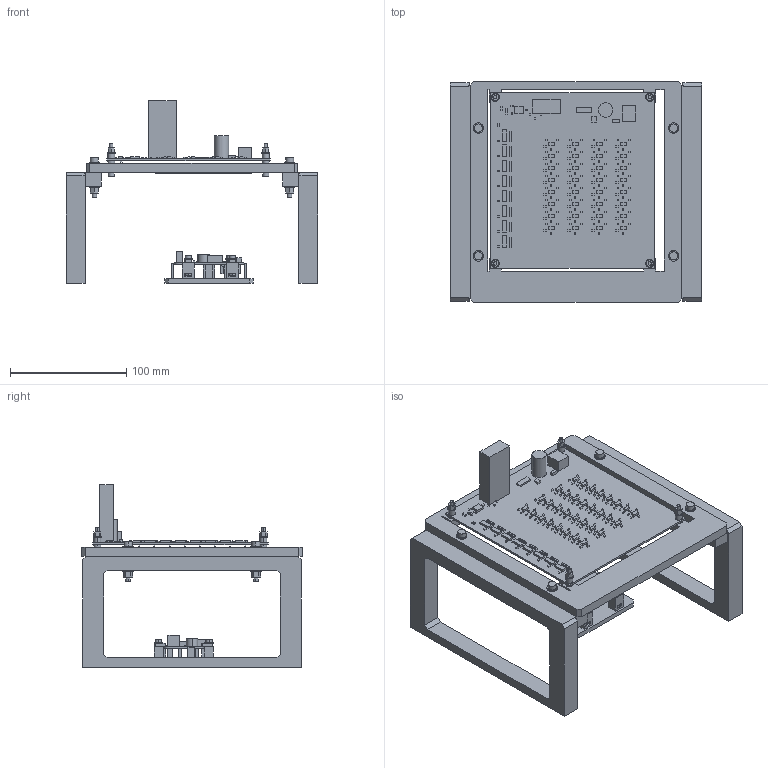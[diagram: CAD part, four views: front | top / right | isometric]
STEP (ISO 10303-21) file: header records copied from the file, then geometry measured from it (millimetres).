
FILE_DESCRIPTION (( 'STEP AP203' ), '1' );
FILE_NAME ('Overhead_8x8_assembly.step', '2026-10-15T10:50:31', ( '' ), ( '' ), 'SwSTEP 2.0', 'SolidWorks 2025', '' );
FILE_SCHEMA (( 'CONFIG_CONTROL_DESIGN' ));
Length unit declared in the file: millimetre
Products named in the file (16): REF_M4x30_screw; 04_m3_rear_sleeve_6x5; Overhead_8x8_assembly; REF_M3_nylock; 06_receiver_edge_clip; REF_receiver_electronics; REF_M3_washer; 01_side_trestle; REF_tx8_electronics; 03_tx_carrier_8x8; REF_M4_nylock; REF_M3x16_screw; REF_M3x25_screw; REF_M3_plain_nut; REF_M4_washer; 05_receiver_flat_tray
Assembly tree (58 placements, depth 2):
  Overhead_8x8_assembly
    01_side_trestle  x2
    03_tx_carrier_8x8
    REF_tx8_electronics
    04_m3_rear_sleeve_6x5  x4
    REF_M3x25_screw  x4
    REF_M3_washer  x12
    REF_M3_nylock  x4
    REF_M4x30_screw  x4
    REF_M4_washer  x8
    REF_M4_nylock  x4
    05_receiver_flat_tray
    REF_receiver_electronics
    06_receiver_edge_clip  x4
    REF_M3x16_screw  x4
    REF_M3_plain_nut  x4
Bounding box: 216 x 190 x 156.9 mm (x, y, z)
Volume: 480382 mm3; surface area: 213408.7 mm2
Topology: 422 solids, 422 shells, 2676 faces, 5412 edges, 3608 vertices
Faces by surface type: plane 2308, cylinder 368
Entity records: 62116 total; most frequent: CARTESIAN_POINT 10187, DIRECTION 9908, ORIENTED_EDGE 9348, EDGE_CURVE 4674, LINE 4234, VECTOR 4234, VERTEX_POINT 3116, AXIS2_PLACEMENT_3D 2837
